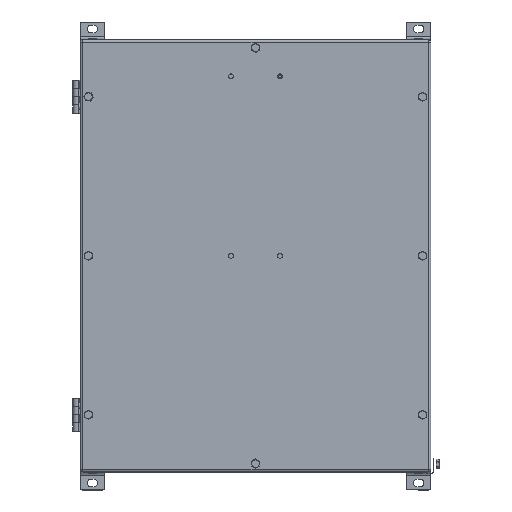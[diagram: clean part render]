
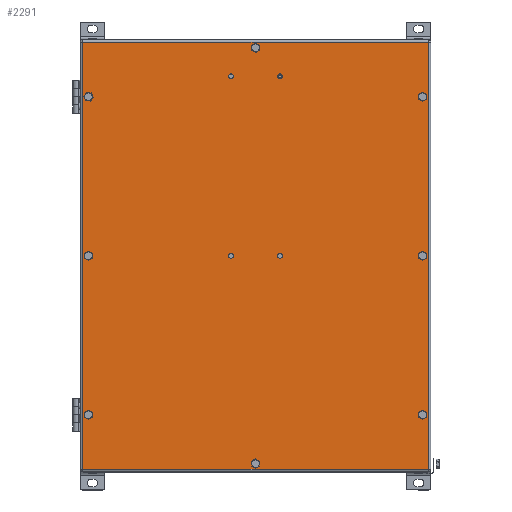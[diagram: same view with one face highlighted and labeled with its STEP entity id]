
A CAD part, top view. The second image highlights one B-rep face of the part: STEP entity #2291.
In plain terms, the highlighted planar face has unit normal (0, 0, 1).
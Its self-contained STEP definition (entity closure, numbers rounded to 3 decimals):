
#1677=CARTESIAN_POINT('',(212.,-262.0,150.5));
#1678=VERTEX_POINT('',#1677);
#1744=CARTESIAN_POINT('',(212.0,262.,150.5));
#1745=VERTEX_POINT('',#1744);
#1811=CARTESIAN_POINT('',(-212.,-262.0,150.5));
#1812=VERTEX_POINT('',#1811);
#1884=CARTESIAN_POINT('',(212.,-262.0,150.5));
#1885=DIRECTION('',(-1.0,0.0,0.0));
#1886=VECTOR('',#1885,424.);
#1887=LINE('',#1884,#1886);
#1888=EDGE_CURVE('',#1678,#1812,#1887,.T.);
#1900=CARTESIAN_POINT('',(-212.0,262.,150.5));
#1901=VERTEX_POINT('',#1900);
#1973=CARTESIAN_POINT('',(-212.,-262.0,150.5));
#1974=DIRECTION('',(0.0,1.0,0.0));
#1975=VECTOR('',#1974,524.0);
#1976=LINE('',#1973,#1975);
#1977=EDGE_CURVE('',#1812,#1901,#1976,.T.);
#1995=CARTESIAN_POINT('',(-212.0,262.,150.5));
#1996=DIRECTION('',(1.0,0.0,0.0));
#1997=VECTOR('',#1996,424.0);
#1998=LINE('',#1995,#1997);
#1999=EDGE_CURVE('',#1901,#1745,#1998,.T.);
#2017=CARTESIAN_POINT('',(212.0,262.0,150.5));
#2018=DIRECTION('',(0.0,-1.0,0.0));
#2019=VECTOR('',#2018,524.0);
#2020=LINE('',#2017,#2019);
#2021=EDGE_CURVE('',#1745,#1678,#2020,.T.);
#2148=CARTESIAN_POINT('',(0.,0.,150.5));
#2149=DIRECTION('',(0.0,0.0,1.0));
#2150=DIRECTION('',(1.0,0.0,0.0));
#2151=AXIS2_PLACEMENT_3D('',#2148,#2149,#2150);
#2152=PLANE('',#2151);
#2153=ORIENTED_EDGE('',*,*,#1888,.F.);
#2154=ORIENTED_EDGE('',*,*,#2021,.F.);
#2155=ORIENTED_EDGE('',*,*,#1999,.F.);
#2156=ORIENTED_EDGE('',*,*,#1977,.F.);
#2157=EDGE_LOOP('',(#2153,#2154,#2155,#2156));
#2158=FACE_OUTER_BOUND('',#2157,.T.);
#2159=CARTESIAN_POINT('',(-201.25,195.,150.5));
#2160=VERTEX_POINT('',#2159);
#2161=CARTESIAN_POINT('',(-205.,195.,150.5));
#2162=DIRECTION('',(0.0,0.0,-1.0));
#2163=DIRECTION('',(-1.0,0.0,0.0));
#2164=AXIS2_PLACEMENT_3D('',#2161,#2162,#2163);
#2165=CIRCLE('',#2164,3.75);
#2166=EDGE_CURVE('',#2160,#2160,#2165,.T.);
#2167=ORIENTED_EDGE('',*,*,#2166,.T.);
#2168=EDGE_LOOP('',(#2167));
#2169=FACE_BOUND('',#2168,.T.);
#2170=CARTESIAN_POINT('',(208.75,195.0,150.5));
#2171=VERTEX_POINT('',#2170);
#2172=CARTESIAN_POINT('',(205.,195.0,150.5));
#2173=DIRECTION('',(0.0,0.0,-1.0));
#2174=DIRECTION('',(-1.0,0.0,0.0));
#2175=AXIS2_PLACEMENT_3D('',#2172,#2173,#2174);
#2176=CIRCLE('',#2175,3.75);
#2177=EDGE_CURVE('',#2171,#2171,#2176,.T.);
#2178=ORIENTED_EDGE('',*,*,#2177,.T.);
#2179=EDGE_LOOP('',(#2178));
#2180=FACE_BOUND('',#2179,.T.);
#2181=CARTESIAN_POINT('',(-201.25,0.,150.5));
#2182=VERTEX_POINT('',#2181);
#2183=CARTESIAN_POINT('',(-205.,0.,150.5));
#2184=DIRECTION('',(0.0,0.0,-1.0));
#2185=DIRECTION('',(-1.0,0.0,0.0));
#2186=AXIS2_PLACEMENT_3D('',#2183,#2184,#2185);
#2187=CIRCLE('',#2186,3.75);
#2188=EDGE_CURVE('',#2182,#2182,#2187,.T.);
#2189=ORIENTED_EDGE('',*,*,#2188,.T.);
#2190=EDGE_LOOP('',(#2189));
#2191=FACE_BOUND('',#2190,.T.);
#2192=CARTESIAN_POINT('',(208.75,0.,150.5));
#2193=VERTEX_POINT('',#2192);
#2194=CARTESIAN_POINT('',(205.,0.,150.5));
#2195=DIRECTION('',(0.0,0.0,-1.0));
#2196=DIRECTION('',(-1.0,0.0,0.0));
#2197=AXIS2_PLACEMENT_3D('',#2194,#2195,#2196);
#2198=CIRCLE('',#2197,3.75);
#2199=EDGE_CURVE('',#2193,#2193,#2198,.T.);
#2200=ORIENTED_EDGE('',*,*,#2199,.T.);
#2201=EDGE_LOOP('',(#2200));
#2202=FACE_BOUND('',#2201,.T.);
#2203=CARTESIAN_POINT('',(-201.25,-195.,150.5));
#2204=VERTEX_POINT('',#2203);
#2205=CARTESIAN_POINT('',(-205.,-195.,150.5));
#2206=DIRECTION('',(0.0,0.0,-1.0));
#2207=DIRECTION('',(-1.0,0.0,0.0));
#2208=AXIS2_PLACEMENT_3D('',#2205,#2206,#2207);
#2209=CIRCLE('',#2208,3.75);
#2210=EDGE_CURVE('',#2204,#2204,#2209,.T.);
#2211=ORIENTED_EDGE('',*,*,#2210,.T.);
#2212=EDGE_LOOP('',(#2211));
#2213=FACE_BOUND('',#2212,.T.);
#2214=CARTESIAN_POINT('',(208.75,-195.0,150.5));
#2215=VERTEX_POINT('',#2214);
#2216=CARTESIAN_POINT('',(205.,-195.0,150.5));
#2217=DIRECTION('',(0.0,0.0,-1.0));
#2218=DIRECTION('',(-1.0,0.0,0.0));
#2219=AXIS2_PLACEMENT_3D('',#2216,#2217,#2218);
#2220=CIRCLE('',#2219,3.75);
#2221=EDGE_CURVE('',#2215,#2215,#2220,.T.);
#2222=ORIENTED_EDGE('',*,*,#2221,.T.);
#2223=EDGE_LOOP('',(#2222));
#2224=FACE_BOUND('',#2223,.T.);
#2225=CARTESIAN_POINT('',(3.75,255.,150.5));
#2226=VERTEX_POINT('',#2225);
#2227=CARTESIAN_POINT('',(0.,255.,150.5));
#2228=DIRECTION('',(0.0,0.0,-1.0));
#2229=DIRECTION('',(-1.0,0.0,0.0));
#2230=AXIS2_PLACEMENT_3D('',#2227,#2228,#2229);
#2231=CIRCLE('',#2230,3.75);
#2232=EDGE_CURVE('',#2226,#2226,#2231,.T.);
#2233=ORIENTED_EDGE('',*,*,#2232,.T.);
#2234=EDGE_LOOP('',(#2233));
#2235=FACE_BOUND('',#2234,.T.);
#2236=CARTESIAN_POINT('',(3.75,-255.,150.5));
#2237=VERTEX_POINT('',#2236);
#2238=CARTESIAN_POINT('',(0.,-255.,150.5));
#2239=DIRECTION('',(0.0,0.0,-1.0));
#2240=DIRECTION('',(-1.0,0.0,0.0));
#2241=AXIS2_PLACEMENT_3D('',#2238,#2239,#2240);
#2242=CIRCLE('',#2241,3.75);
#2243=EDGE_CURVE('',#2237,#2237,#2242,.T.);
#2244=ORIENTED_EDGE('',*,*,#2243,.T.);
#2245=EDGE_LOOP('',(#2244));
#2246=FACE_BOUND('',#2245,.T.);
#2247=CARTESIAN_POINT('',(33.05,220.,150.5));
#2248=VERTEX_POINT('',#2247);
#2249=CARTESIAN_POINT('',(30.,220.,150.5));
#2250=DIRECTION('',(0.0,0.0,-1.0));
#2251=DIRECTION('',(-1.0,0.0,0.0));
#2252=AXIS2_PLACEMENT_3D('',#2249,#2250,#2251);
#2253=CIRCLE('',#2252,3.05);
#2254=EDGE_CURVE('',#2248,#2248,#2253,.T.);
#2255=ORIENTED_EDGE('',*,*,#2254,.T.);
#2256=EDGE_LOOP('',(#2255));
#2257=FACE_BOUND('',#2256,.T.);
#2258=CARTESIAN_POINT('',(-26.95,220.,150.5));
#2259=VERTEX_POINT('',#2258);
#2260=CARTESIAN_POINT('',(-30.,220.,150.5));
#2261=DIRECTION('',(0.0,0.0,-1.0));
#2262=DIRECTION('',(-1.0,0.0,0.0));
#2263=AXIS2_PLACEMENT_3D('',#2260,#2261,#2262);
#2264=CIRCLE('',#2263,3.05);
#2265=EDGE_CURVE('',#2259,#2259,#2264,.T.);
#2266=ORIENTED_EDGE('',*,*,#2265,.T.);
#2267=EDGE_LOOP('',(#2266));
#2268=FACE_BOUND('',#2267,.T.);
#2269=CARTESIAN_POINT('',(-26.95,0.,150.5));
#2270=VERTEX_POINT('',#2269);
#2271=CARTESIAN_POINT('',(-30.,0.,150.5));
#2272=DIRECTION('',(0.0,0.0,-1.0));
#2273=DIRECTION('',(-1.0,0.0,0.0));
#2274=AXIS2_PLACEMENT_3D('',#2271,#2272,#2273);
#2275=CIRCLE('',#2274,3.05);
#2276=EDGE_CURVE('',#2270,#2270,#2275,.T.);
#2277=ORIENTED_EDGE('',*,*,#2276,.T.);
#2278=EDGE_LOOP('',(#2277));
#2279=FACE_BOUND('',#2278,.T.);
#2280=CARTESIAN_POINT('',(33.05,0.,150.5));
#2281=VERTEX_POINT('',#2280);
#2282=CARTESIAN_POINT('',(30.,0.,150.5));
#2283=DIRECTION('',(0.0,0.0,-1.0));
#2284=DIRECTION('',(-1.0,0.0,0.0));
#2285=AXIS2_PLACEMENT_3D('',#2282,#2283,#2284);
#2286=CIRCLE('',#2285,3.05);
#2287=EDGE_CURVE('',#2281,#2281,#2286,.T.);
#2288=ORIENTED_EDGE('',*,*,#2287,.T.);
#2289=EDGE_LOOP('',(#2288));
#2290=FACE_BOUND('',#2289,.T.);
#2291=ADVANCED_FACE('',(#2158,#2169,#2180,#2191,#2202,#2213,#2224,#2235,#2246,#2257,#2268,#2279,#2290),#2152,.T.);
